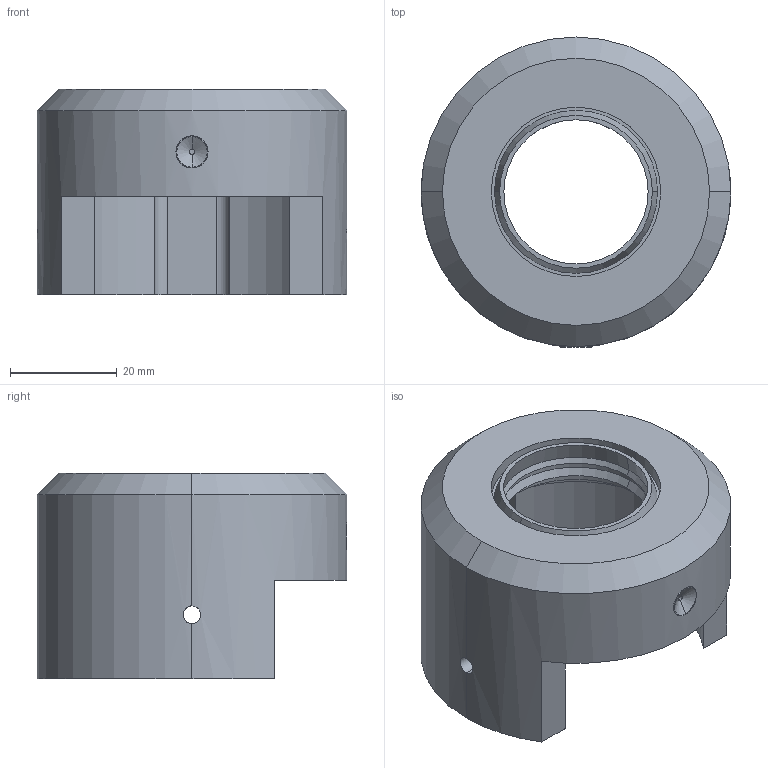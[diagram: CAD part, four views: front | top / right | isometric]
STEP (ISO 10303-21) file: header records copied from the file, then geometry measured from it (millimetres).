
FILE_DESCRIPTION (( 'STEP AP214' ), '1' );
FILE_NAME ('PA01-48!27-R.STEP', '2008-04-09T13:22:15', ( 'Ausderau' ), ( 'NTI AG' ), 'SwSTEP 2.0', 'SolidWorks 2005037', '' );
FILE_SCHEMA (( 'AUTOMOTIVE_DESIGN' ));
Length unit declared in the file: millimetre
Products named in the file (1): PA01-48!27-R
Bounding box: 58 x 58.03 x 38.5 mm (x, y, z)
Volume: 37155.5 mm3; surface area: 14975.3 mm2
Topology: 1 solids, 1 shells, 58 faces, 138 edges, 83 vertices
Faces by surface type: cylinder 28, cone 14, plane 14, torus 2
Entity records: 2292 total; most frequent: CARTESIAN_POINT 607, DIRECTION 305, ORIENTED_EDGE 276, EDGE_CURVE 138, AXIS2_PLACEMENT_3D 123, VERTEX_POINT 83, EDGE_LOOP 67, CIRCLE 64
